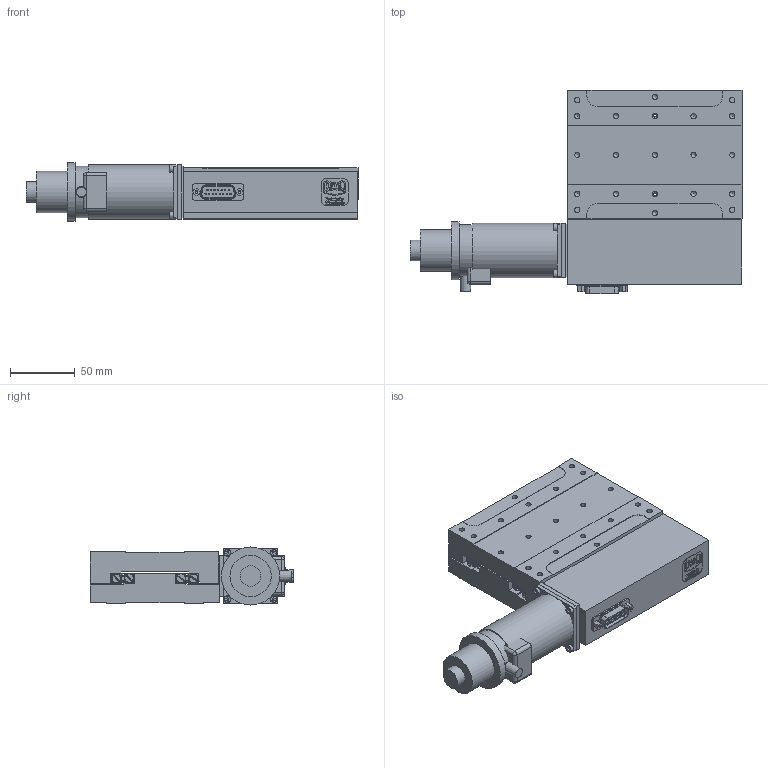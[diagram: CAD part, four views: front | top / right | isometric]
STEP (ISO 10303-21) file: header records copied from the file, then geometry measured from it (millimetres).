
FILE_DESCRIPTION(/* description */ (''),/* implementation_level */ '2;1');
FILE_NAME(/* name */ 'H:\Inventor\Katalog\3D-CAD-Modelle\STP neu\PT5-Nxxx-CAD.stp',/* time_stamp */ '2024-01-22T08:56:46+01:00',/* author */ ('KON3'),/* organization */ (''),/* preprocessor_version */ 'ST-DEVELOPER v18',/* originating_system */ 'Autodesk Inventor 2020',/* authorisation */ '');
FILE_SCHEMA (('AUTOMOTIVE_DESIGN { 1 0 10303 214 3 1 1 }'));
Products named in the file (7): PT5-Nxxx-CAD; PT5-Nxxx_oben; PT5-Nxxx_unten; ZSS33-MOK_25_ohne_Kabel_Shrinkwrap; M25-MAX20-Zubehoer_Shrinkwrap_1; M25-MAX20-D-Zubehoer_Shrinkwrap_1; ZSS43-Bremse+Adapter_Shrinkwrap_1
Assembly tree (6 placements, depth 2):
  PT5-Nxxx-CAD
    PT5-Nxxx_oben
    PT5-Nxxx_unten
    ZSS33-MOK_25_ohne_Kabel_Shrinkwrap
    M25-MAX20-Zubehoer_Shrinkwrap_1
    M25-MAX20-D-Zubehoer_Shrinkwrap_1
    ZSS43-Bremse+Adapter_Shrinkwrap_1
Bounding box: 257 x 157.3 x 45 mm (x, y, z)
Volume: 999303.4 mm3; surface area: 198559.2 mm2
Topology: 52 solids, 52 shells, 1691 faces, 4453 edges, 3031 vertices
Faces by surface type: plane 880, cylinder 431, bspline 194, cone 142, torus 41, sphere 3
Full cylindrical faces by diameter (mm): 1 x30, 1.221 x2, 1.567 x8, 1.783 x3, 1.8 x2, 2 x3, 2.156 x2, 2.256 x8, 2.4 x8, 2.459 x40, 2.5 x12, 2.8 x16, 3 x11, 3.2 x6, 3.242 x20, 3.3 x4, 3.4 x1, 3.5 x8, 4 x10, 4.134 x14, 4.5 x4, 4.917 x10, 5 x1, 5.5 x8, 6 x22, 7.5 x8, 8 x6, 10 x14, 16 x1, 18 x2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
Entity records: 57340 total; most frequent: CARTESIAN_POINT 13305, ORIENTED_EDGE 8764, DIRECTION 8444, EDGE_CURVE 4382, AXIS2_PLACEMENT_3D 3078, VERTEX_POINT 3031, LINE 2288, VECTOR 2288
